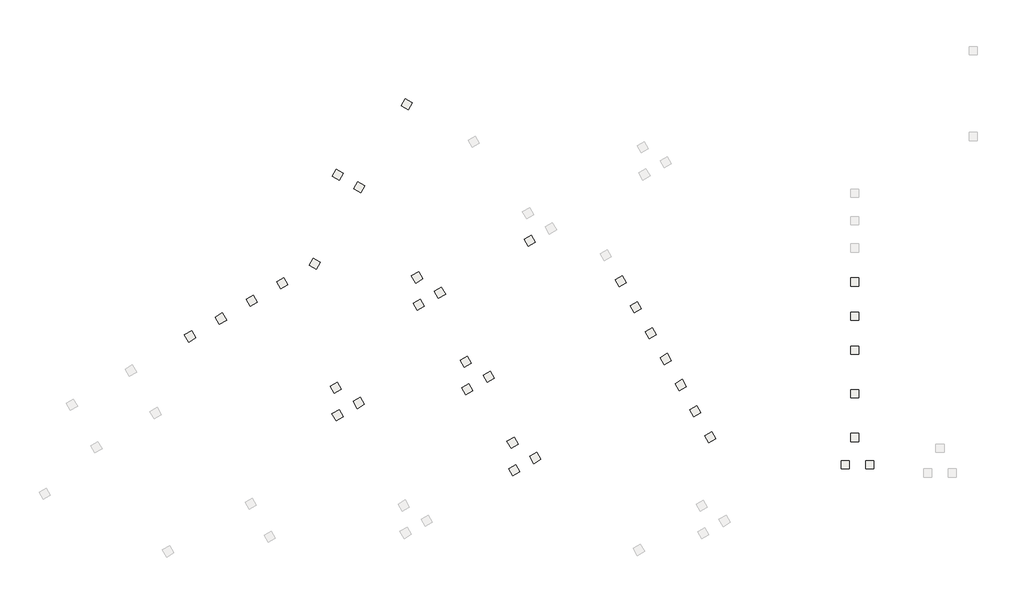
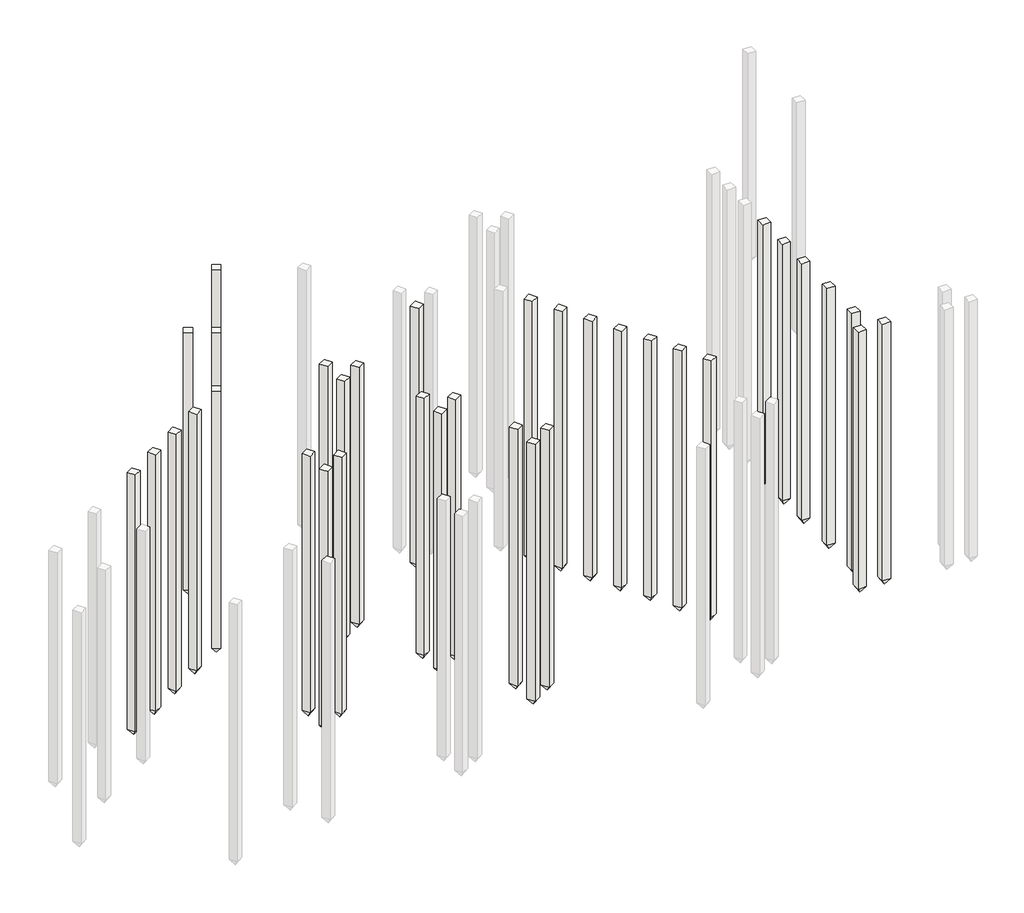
# One storey, part 3 of 6: 35 slabs.
"""IFC4 building model written with IfcOpenShell, lengths in millimetres."""

from ifc_helpers import new_model, si_unit, origin, place, context, project, spatial, faceted_brep, element, save

model = new_model("IFC4")

# Units and contexts
model_context = context("Model", 3, world=origin())
ifc_project = project(units=[si_unit("LENGTHUNIT", "METRE", prefix="MILLI")], contexts=[model_context])

# Site, building, storey
site = spatial("IfcSite", under=ifc_project)
building = spatial("IfcBuilding", under=site)
storey = spatial("IfcBuildingStorey", under=building, Name="КЖм.-1.150 (Верх свай 1)", Elevation=-1150.0)

# Slabs
placement = place(None, origin())
element("IfcSlab", 1, ObjectType="Бетонная свая прямоугольного сечения : C100.30-9", at=placement, inside=storey, context=model_context, shape_type="Brep", body=[
    faceted_brep([(18569.9782843, 17155.4364942, -1150.0), (18310.1706632, 17005.4364942, -1150.0), (18460.1706632, 16745.6288731, -1150.0), (18719.9782843, 16895.6288731, -1150.0), (18569.9782843, 17155.4364942, -1200.0), (18569.9782843, 17155.4364942, -1300.0), (18569.9782843, 17155.4364942, -11150.0), (18310.1706632, 17005.4364942, -11150.0), (18310.1706632, 17005.4364942, -1300.0), (18310.1706632, 17005.4364942, -1200.0), (18460.1706632, 16745.6288731, -11150.0), (18460.1706632, 16745.6288731, -1300.0), (18460.1706632, 16745.6288731, -1200.0), (18719.9782843, 16895.6288731, -11150.0), (18719.9782843, 16895.6288731, -1300.0), (18719.9782843, 16895.6288731, -1200.0), (18515.2503, 16951.0732662, -11400.0), (18515.6503, 16950.3804458, -11400.0), (18514.9574796, 16949.9804458, -11400.0), (18514.5574796, 16950.6732662, -11400.0)], [[[0, 1, 2, 3]], [[1, 0, 4, 5, 6, 7, 8, 9]], [[2, 1, 9, 8, 7, 10, 11, 12]], [[3, 2, 12, 11, 10, 13, 14, 15]], [[0, 3, 15, 14, 13, 6, 5, 4]], [[16, 17, 18, 19]], [[17, 16, 6, 13]], [[18, 17, 13, 10]], [[19, 18, 10, 7]], [[16, 19, 7, 6]]]),
])
element("IfcSlab", 2, ObjectType="Бетонная свая прямоугольного сечения : C100.30-9", at=placement, inside=storey, context=model_context, shape_type="Brep", body=[
    faceted_brep([(19349.3631241, 17605.5023466, -1150.0), (19089.555503, 17455.5023466, -1150.0), (19239.555503, 17195.6947254, -1150.0), (19499.3631241, 17345.6947254, -1150.0), (19349.3631241, 17605.5023466, -1200.0), (19349.3631241, 17605.5023466, -1300.0), (19349.3631241, 17605.5023466, -11150.0), (19089.555503, 17455.5023466, -11150.0), (19089.555503, 17455.5023466, -1300.0), (19089.555503, 17455.5023466, -1200.0), (19239.555503, 17195.6947254, -11150.0), (19239.555503, 17195.6947254, -1300.0), (19239.555503, 17195.6947254, -1200.0), (19499.3631241, 17345.6947254, -11150.0), (19499.3631241, 17345.6947254, -1300.0), (19499.3631241, 17345.6947254, -1200.0), (19294.6351398, 17401.1391185, -11400.0), (19295.0351398, 17400.4462982, -11400.0), (19294.3423195, 17400.0462982, -11400.0), (19293.9423195, 17400.7391185, -11400.0)], [[[0, 1, 2, 3]], [[1, 0, 4, 5, 6, 7, 8, 9]], [[2, 1, 9, 8, 7, 10, 11, 12]], [[3, 2, 12, 11, 10, 13, 14, 15]], [[0, 3, 15, 14, 13, 6, 5, 4]], [[16, 17, 18, 19]], [[17, 16, 6, 13]], [[18, 17, 13, 10]], [[19, 18, 10, 7]], [[16, 19, 7, 6]]]),
])
element("IfcSlab", 3, ObjectType="Бетонная свая прямоугольного сечения : C100.30-9", at=placement, inside=storey, context=model_context, shape_type="Brep", body=[
    faceted_brep([(18509.6048521, 18159.8542611, -1150.0), (18249.797231, 18009.8542611, -1150.0), (18399.797231, 17750.04664, -1150.0), (18659.6048521, 17900.04664, -1150.0), (18509.6048521, 18159.8542611, -1200.0), (18509.6048521, 18159.8542611, -1300.0), (18509.6048521, 18159.8542611, -11150.0), (18249.797231, 18009.8542611, -11150.0), (18249.797231, 18009.8542611, -1300.0), (18249.797231, 18009.8542611, -1200.0), (18399.797231, 17750.04664, -11150.0), (18399.797231, 17750.04664, -1300.0), (18399.797231, 17750.04664, -1200.0), (18659.6048521, 17900.04664, -11150.0), (18659.6048521, 17900.04664, -1300.0), (18659.6048521, 17900.04664, -1200.0), (18454.8768677, 17955.4910331, -11400.0), (18455.2768677, 17954.7982128, -11400.0), (18454.5840474, 17954.3982128, -11400.0), (18454.1840474, 17955.0910331, -11400.0)], [[[0, 1, 2, 3]], [[1, 0, 4, 5, 6, 7, 8, 9]], [[2, 1, 9, 8, 7, 10, 11, 12]], [[3, 2, 12, 11, 10, 13, 14, 15]], [[0, 3, 15, 14, 13, 6, 5, 4]], [[16, 17, 18, 19]], [[17, 16, 6, 13]], [[18, 17, 13, 10]], [[19, 18, 10, 7]], [[16, 19, 7, 6]]]),
])
element("IfcSlab", 4, ObjectType="Бетонная свая прямоугольного сечения : C100.30-9", at=placement, inside=storey, context=model_context, shape_type="Brep", body=[
    faceted_brep([(12093.3976217, 19171.8934815, -1150.0), (11833.5900006, 19021.8934815, -1150.0), (11983.5900006, 18762.0858604, -1150.0), (12243.3976217, 18912.0858604, -1150.0), (12093.3976217, 19171.8934815, -1200.0), (12093.3976217, 19171.8934815, -1300.0), (12093.3976217, 19171.8934815, -11150.0), (11833.5900006, 19021.8934815, -11150.0), (11833.5900006, 19021.8934815, -1300.0), (11833.5900006, 19021.8934815, -1200.0), (11983.5900006, 18762.0858604, -11150.0), (11983.5900006, 18762.0858604, -1300.0), (11983.5900006, 18762.0858604, -1200.0), (12243.3976217, 18912.0858604, -11150.0), (12243.3976217, 18912.0858604, -1300.0), (12243.3976217, 18912.0858604, -1200.0), (12038.6696374, 18967.5302535, -11400.0), (12039.0696374, 18966.8374332, -11400.0), (12038.376817, 18966.4374332, -11400.0), (12037.976817, 18967.1302535, -11400.0)], [[[0, 1, 2, 3]], [[1, 0, 4, 5, 6, 7, 8, 9]], [[2, 1, 9, 8, 7, 10, 11, 12]], [[3, 2, 12, 11, 10, 13, 14, 15]], [[0, 3, 15, 14, 13, 6, 5, 4]], [[16, 17, 18, 19]], [[17, 16, 6, 13]], [[18, 17, 13, 10]], [[19, 18, 10, 7]], [[16, 19, 7, 6]]]),
])
element("IfcSlab", 5, ObjectType="Бетонная свая прямоугольного сечения : C100.30-9", at=placement, inside=storey, context=model_context, shape_type="Brep", body=[
    faceted_brep([(12872.7824615, 19621.9593339, -1150.0), (12612.9748404, 19471.9593339, -1150.0), (12762.9748404, 19212.1517128, -1150.0), (13022.7824615, 19362.1517128, -1150.0), (12872.7824615, 19621.9593339, -1200.0), (12872.7824615, 19621.9593339, -1300.0), (12872.7824615, 19621.9593339, -11150.0), (12612.9748404, 19471.9593339, -11150.0), (12612.9748404, 19471.9593339, -1300.0), (12612.9748404, 19471.9593339, -1200.0), (12762.9748404, 19212.1517128, -11150.0), (12762.9748404, 19212.1517128, -1300.0), (12762.9748404, 19212.1517128, -1200.0), (13022.7824615, 19362.1517128, -11150.0), (13022.7824615, 19362.1517128, -1300.0), (13022.7824615, 19362.1517128, -1200.0), (12818.0544772, 19417.5961059, -11400.0), (12818.4544772, 19416.9032856, -11400.0), (12817.7616569, 19416.5032856, -11400.0), (12817.3616569, 19417.1961059, -11400.0)], [[[0, 1, 2, 3]], [[1, 0, 4, 5, 6, 7, 8, 9]], [[2, 1, 9, 8, 7, 10, 11, 12]], [[3, 2, 12, 11, 10, 13, 14, 15]], [[0, 3, 15, 14, 13, 6, 5, 4]], [[16, 17, 18, 19]], [[17, 16, 6, 13]], [[18, 17, 13, 10]], [[19, 18, 10, 7]], [[16, 19, 7, 6]]]),
])
element("IfcSlab", 6, ObjectType="Бетонная свая прямоугольного сечения : C100.30-9", at=placement, inside=storey, context=model_context, shape_type="Brep", body=[
    faceted_brep([(12033.0241895, 20176.3112485, -1150.0), (11773.2165684, 20026.3112485, -1150.0), (11923.2165684, 19766.5036273, -1150.0), (12183.0241895, 19916.5036273, -1150.0), (12033.0241895, 20176.3112485, -1200.0), (12033.0241895, 20176.3112485, -1300.0), (12033.0241895, 20176.3112485, -11150.0), (11773.2165684, 20026.3112485, -11150.0), (11773.2165684, 20026.3112485, -1300.0), (11773.2165684, 20026.3112485, -1200.0), (11923.2165684, 19766.5036273, -11150.0), (11923.2165684, 19766.5036273, -1300.0), (11923.2165684, 19766.5036273, -1200.0), (12183.0241895, 19916.5036273, -11150.0), (12183.0241895, 19916.5036273, -1300.0), (12183.0241895, 19916.5036273, -1200.0), (11978.2962051, 19971.9480204, -11400.0), (11978.6962051, 19971.2552001, -11400.0), (11978.0033848, 19970.8552001, -11400.0), (11977.6033848, 19971.5480204, -11400.0)], [[[0, 1, 2, 3]], [[1, 0, 4, 5, 6, 7, 8, 9]], [[2, 1, 9, 8, 7, 10, 11, 12]], [[3, 2, 12, 11, 10, 13, 14, 15]], [[0, 3, 15, 14, 13, 6, 5, 4]], [[16, 17, 18, 19]], [[17, 16, 6, 13]], [[18, 17, 13, 10]], [[19, 18, 10, 7]], [[16, 19, 7, 6]]]),
])
element("IfcSlab", 7, ObjectType="Бетонная свая прямоугольного сечения : C100.30-9", at=placement, inside=storey, context=model_context, shape_type="Brep", body=[
    faceted_brep([(15069.4585442, 23217.3272177, -1150.0), (14809.650923, 23067.3272177, -1150.0), (14959.650923, 22807.5195965, -1150.0), (15219.4585442, 22957.5195965, -1150.0), (15069.4585442, 23217.3272177, -1200.0), (15069.4585442, 23217.3272177, -1300.0), (15069.4585442, 23217.3272177, -11150.0), (14809.650923, 23067.3272177, -11150.0), (14809.650923, 23067.3272177, -1300.0), (14809.650923, 23067.3272177, -1200.0), (14959.650923, 22807.5195965, -11150.0), (14959.650923, 22807.5195965, -1300.0), (14959.650923, 22807.5195965, -1200.0), (15219.4585442, 22957.5195965, -11150.0), (15219.4585442, 22957.5195965, -1300.0), (15219.4585442, 22957.5195965, -1200.0), (15014.7305598, 23012.9639896, -11400.0), (15015.1305598, 23012.2711693, -11400.0), (15014.4377395, 23011.8711693, -11400.0), (15014.0377395, 23012.5639896, -11400.0)], [[[0, 1, 2, 3]], [[1, 0, 4, 5, 6, 7, 8, 9]], [[2, 1, 9, 8, 7, 10, 11, 12]], [[3, 2, 12, 11, 10, 13, 14, 15]], [[0, 3, 15, 14, 13, 6, 5, 4]], [[16, 17, 18, 19]], [[17, 16, 6, 13]], [[18, 17, 13, 10]], [[19, 18, 10, 7]], [[16, 19, 7, 6]]]),
])
element("IfcSlab", 8, ObjectType="Бетонная свая прямоугольного сечения : C100.30-9", at=placement, inside=storey, context=model_context, shape_type="Brep", body=[
    faceted_brep([(15848.843384, 23667.39307, -1150.0), (15589.0357628, 23517.39307, -1150.0), (15739.0357628, 23257.5854489, -1150.0), (15998.843384, 23407.5854489, -1150.0), (15848.843384, 23667.39307, -1200.0), (15848.843384, 23667.39307, -1300.0), (15848.843384, 23667.39307, -11150.0), (15589.0357628, 23517.39307, -11150.0), (15589.0357628, 23517.39307, -1300.0), (15589.0357628, 23517.39307, -1200.0), (15739.0357628, 23257.5854489, -11150.0), (15739.0357628, 23257.5854489, -1300.0), (15739.0357628, 23257.5854489, -1200.0), (15998.843384, 23407.5854489, -11150.0), (15998.843384, 23407.5854489, -1300.0), (15998.843384, 23407.5854489, -1200.0), (15794.1153996, 23463.029842, -11400.0), (15794.5153996, 23462.3370217, -11400.0), (15793.8225793, 23461.9370217, -11400.0), (15793.4225793, 23462.629842, -11400.0)], [[[0, 1, 2, 3]], [[1, 0, 4, 5, 6, 7, 8, 9]], [[2, 1, 9, 8, 7, 10, 11, 12]], [[3, 2, 12, 11, 10, 13, 14, 15]], [[0, 3, 15, 14, 13, 6, 5, 4]], [[16, 17, 18, 19]], [[17, 16, 6, 13]], [[18, 17, 13, 10]], [[19, 18, 10, 7]], [[16, 19, 7, 6]]]),
])
element("IfcSlab", 9, ObjectType="Бетонная свая прямоугольного сечения : C100.30-9", at=placement, inside=storey, context=model_context, shape_type="Brep", body=[
    faceted_brep([(15009.0851119, 24221.7449846, -1150.0), (14749.2774908, 24071.7449846, -1150.0), (14899.2774908, 23811.9373634, -1150.0), (15159.0851119, 23961.9373634, -1150.0), (15009.0851119, 24221.7449846, -1200.0), (15009.0851119, 24221.7449846, -1300.0), (15009.0851119, 24221.7449846, -11150.0), (14749.2774908, 24071.7449846, -11150.0), (14749.2774908, 24071.7449846, -1300.0), (14749.2774908, 24071.7449846, -1200.0), (14899.2774908, 23811.9373634, -11150.0), (14899.2774908, 23811.9373634, -1300.0), (14899.2774908, 23811.9373634, -1200.0), (15159.0851119, 23961.9373634, -11150.0), (15159.0851119, 23961.9373634, -1300.0), (15159.0851119, 23961.9373634, -1200.0), (14954.3571276, 24017.3817565, -11400.0), (14954.7571276, 24016.6889362, -11400.0), (14954.0643073, 24016.2889362, -11400.0), (14953.6643073, 24016.9817565, -11400.0)], [[[0, 1, 2, 3]], [[1, 0, 4, 5, 6, 7, 8, 9]], [[2, 1, 9, 8, 7, 10, 11, 12]], [[3, 2, 12, 11, 10, 13, 14, 15]], [[0, 3, 15, 14, 13, 6, 5, 4]], [[16, 17, 18, 19]], [[17, 16, 6, 13]], [[18, 17, 13, 10]], [[19, 18, 10, 7]], [[16, 19, 7, 6]]]),
])
element("IfcSlab", 10, ObjectType="Бетонная свая прямоугольного сечения : C100.30-9", at=placement, inside=storey, context=model_context, shape_type="Brep", body=[
    faceted_brep([(19139.5842981, 25567.6626822, -1150.0), (18879.776677, 25417.6626822, -1150.0), (19029.776677, 25157.855061, -1150.0), (19289.5842981, 25307.855061, -1150.0), (19139.5842981, 25567.6626822, -1200.0), (19139.5842981, 25567.6626822, -1300.0), (19139.5842981, 25567.6626822, -11150.0), (18879.776677, 25417.6626822, -11150.0), (18879.776677, 25417.6626822, -1300.0), (18879.776677, 25417.6626822, -1200.0), (19029.776677, 25157.855061, -11150.0), (19029.776677, 25157.855061, -1300.0), (19029.776677, 25157.855061, -1200.0), (19289.5842981, 25307.855061, -11150.0), (19289.5842981, 25307.855061, -1300.0), (19289.5842981, 25307.855061, -1200.0), (19084.8563137, 25363.2994541, -11400.0), (19085.2563137, 25362.6066338, -11400.0), (19084.5634934, 25362.2066338, -11400.0), (19084.1634934, 25362.8994541, -11400.0)], [[[0, 1, 2, 3]], [[1, 0, 4, 5, 6, 7, 8, 9]], [[2, 1, 9, 8, 7, 10, 11, 12]], [[3, 2, 12, 11, 10, 13, 14, 15]], [[0, 3, 15, 14, 13, 6, 5, 4]], [[16, 17, 18, 19]], [[17, 16, 6, 13]], [[18, 17, 13, 10]], [[19, 18, 10, 7]], [[16, 19, 7, 6]]]),
])
element("IfcSlab", 11, ObjectType="Бетонная свая прямоугольного сечения : C100.30-9", at=placement, inside=storey, context=model_context, shape_type="Brep", body=[
    faceted_brep([(25763.5685356, 18365.377475, -1150.0), (25503.7609145, 18215.377475, -1150.0), (25653.7609145, 17955.5698539, -1150.0), (25913.5685356, 18105.5698539, -1150.0), (25763.5685356, 18365.377475, -1200.0), (25763.5685356, 18365.377475, -1300.0), (25763.5685356, 18365.377475, -11150.0), (25503.7609145, 18215.377475, -11150.0), (25503.7609145, 18215.377475, -1300.0), (25503.7609145, 18215.377475, -1200.0), (25653.7609145, 17955.5698539, -11150.0), (25653.7609145, 17955.5698539, -1300.0), (25653.7609145, 17955.5698539, -1200.0), (25913.5685356, 18105.5698539, -11150.0), (25913.5685356, 18105.5698539, -1300.0), (25913.5685356, 18105.5698539, -1200.0), (25708.8405512, 18161.0142469, -11400.0), (25709.2405512, 18160.3214266, -11400.0), (25708.5477309, 18159.9214266, -11400.0), (25708.1477309, 18160.6142469, -11400.0)], [[[0, 1, 2, 3]], [[1, 0, 4, 5, 6, 7, 8, 9]], [[2, 1, 9, 8, 7, 10, 11, 12]], [[3, 2, 12, 11, 10, 13, 14, 15]], [[0, 3, 15, 14, 13, 6, 5, 4]], [[16, 17, 18, 19]], [[17, 16, 6, 13]], [[18, 17, 13, 10]], [[19, 18, 10, 7]], [[16, 19, 7, 6]]]),
])
element("IfcSlab", 12, ObjectType="Бетонная свая прямоугольного сечения : C100.30-9", at=placement, inside=storey, context=model_context, shape_type="Brep", body=[
    faceted_brep([(25214.0131646, 19318.2619752, -1150.0), (24954.2055434, 19168.2619752, -1150.0), (25104.2055434, 18908.4543541, -1150.0), (25364.0131646, 19058.4543541, -1150.0), (25214.0131646, 19318.2619752, -1200.0), (25214.0131646, 19318.2619752, -1300.0), (25214.0131646, 19318.2619752, -11150.0), (24954.2055434, 19168.2619752, -11150.0), (24954.2055434, 19168.2619752, -1300.0), (24954.2055434, 19168.2619752, -1200.0), (25104.2055434, 18908.4543541, -11150.0), (25104.2055434, 18908.4543541, -1300.0), (25104.2055434, 18908.4543541, -1200.0), (25364.0131646, 19058.4543541, -11150.0), (25364.0131646, 19058.4543541, -1300.0), (25364.0131646, 19058.4543541, -1200.0), (25159.2851802, 19113.8987472, -11400.0), (25159.6851802, 19113.2059269, -11400.0), (25158.9923599, 19112.8059269, -11400.0), (25158.5923599, 19113.4987472, -11400.0)], [[[0, 1, 2, 3]], [[1, 0, 4, 5, 6, 7, 8, 9]], [[2, 1, 9, 8, 7, 10, 11, 12]], [[3, 2, 12, 11, 10, 13, 14, 15]], [[0, 3, 15, 14, 13, 6, 5, 4]], [[16, 17, 18, 19]], [[17, 16, 6, 13]], [[18, 17, 13, 10]], [[19, 18, 10, 7]], [[16, 19, 7, 6]]]),
])
element("IfcSlab", 13, ObjectType="Бетонная свая прямоугольного сечения : C100.30-9", at=placement, inside=storey, context=model_context, shape_type="Brep", body=[
    faceted_brep([(24674.1678741, 20276.6792756, -1150.0), (24414.3602529, 20126.6792756, -1150.0), (24564.3602529, 19866.8716545, -1150.0), (24824.1678741, 20016.8716545, -1150.0), (24674.1678741, 20276.6792756, -1200.0), (24674.1678741, 20276.6792756, -1300.0), (24674.1678741, 20276.6792756, -11150.0), (24414.3602529, 20126.6792756, -11150.0), (24414.3602529, 20126.6792756, -1300.0), (24414.3602529, 20126.6792756, -1200.0), (24564.3602529, 19866.8716545, -11150.0), (24564.3602529, 19866.8716545, -1300.0), (24564.3602529, 19866.8716545, -1200.0), (24824.1678741, 20016.8716545, -11150.0), (24824.1678741, 20016.8716545, -1300.0), (24824.1678741, 20016.8716545, -1200.0), (24619.4398897, 20072.3160476, -11400.0), (24619.8398897, 20071.6232272, -11400.0), (24619.1470694, 20071.2232272, -11400.0), (24618.7470694, 20071.9160476, -11400.0)], [[[0, 1, 2, 3]], [[1, 0, 4, 5, 6, 7, 8, 9]], [[2, 1, 9, 8, 7, 10, 11, 12]], [[3, 2, 12, 11, 10, 13, 14, 15]], [[0, 3, 15, 14, 13, 6, 5, 4]], [[16, 17, 18, 19]], [[17, 16, 6, 13]], [[18, 17, 13, 10]], [[19, 18, 10, 7]], [[16, 19, 7, 6]]]),
])
element("IfcSlab", 14, ObjectType="Бетонная свая прямоугольного сечения : C100.30-9", at=placement, inside=storey, context=model_context, shape_type="Brep", body=[
    faceted_brep([(24124.656966, 21229.5894313, -1150.0), (23864.8493449, 21079.5894313, -1150.0), (24014.8493449, 20819.7818102, -1150.0), (24274.656966, 20969.7818102, -1150.0), (24124.656966, 21229.5894313, -1200.0), (24124.656966, 21229.5894313, -1300.0), (24124.656966, 21229.5894313, -11150.0), (23864.8493449, 21079.5894313, -11150.0), (23864.8493449, 21079.5894313, -1300.0), (23864.8493449, 21079.5894313, -1200.0), (24014.8493449, 20819.7818102, -11150.0), (24014.8493449, 20819.7818102, -1300.0), (24014.8493449, 20819.7818102, -1200.0), (24274.656966, 20969.7818102, -11150.0), (24274.656966, 20969.7818102, -1300.0), (24274.656966, 20969.7818102, -1200.0), (24069.9289816, 21025.2262033, -11400.0), (24070.3289816, 21024.533383, -11400.0), (24069.6361613, 21024.133383, -11400.0), (24069.2361613, 21024.8262033, -11400.0)], [[[0, 1, 2, 3]], [[1, 0, 4, 5, 6, 7, 8, 9]], [[2, 1, 9, 8, 7, 10, 11, 12]], [[3, 2, 12, 11, 10, 13, 14, 15]], [[0, 3, 15, 14, 13, 6, 5, 4]], [[16, 17, 18, 19]], [[17, 16, 6, 13]], [[18, 17, 13, 10]], [[19, 18, 10, 7]], [[16, 19, 7, 6]]]),
])
element("IfcSlab", 15, ObjectType="Бетонная свая прямоугольного сечения : C100.30-9", at=placement, inside=storey, context=model_context, shape_type="Brep", body=[
    faceted_brep([(23575.1460586, 22182.4995859, -1150.0), (23315.3384375, 22032.4995859, -1150.0), (23465.3384375, 21772.6919648, -1150.0), (23725.1460586, 21922.6919648, -1150.0), (23575.1460586, 22182.4995859, -1200.0), (23575.1460586, 22182.4995859, -1300.0), (23575.1460586, 22182.4995859, -11150.0), (23315.3384375, 22032.4995859, -11150.0), (23315.3384375, 22032.4995859, -1300.0), (23315.3384375, 22032.4995859, -1200.0), (23465.3384375, 21772.6919648, -11150.0), (23465.3384375, 21772.6919648, -1300.0), (23465.3384375, 21772.6919648, -1200.0), (23725.1460586, 21922.6919648, -11150.0), (23725.1460586, 21922.6919648, -1300.0), (23725.1460586, 21922.6919648, -1200.0), (23520.4180742, 21978.1363578, -11400.0), (23520.8180742, 21977.4435375, -11400.0), (23520.1252539, 21977.0435375, -11400.0), (23519.7252539, 21977.7363578, -11400.0)], [[[0, 1, 2, 3]], [[1, 0, 4, 5, 6, 7, 8, 9]], [[2, 1, 9, 8, 7, 10, 11, 12]], [[3, 2, 12, 11, 10, 13, 14, 15]], [[0, 3, 15, 14, 13, 6, 5, 4]], [[16, 17, 18, 19]], [[17, 16, 6, 13]], [[18, 17, 13, 10]], [[19, 18, 10, 7]], [[16, 19, 7, 6]]]),
])
element("IfcSlab", 16, ObjectType="Бетонная свая прямоугольного сечения : C100.30-9", at=placement, inside=storey, context=model_context, shape_type="Brep", body=[
    faceted_brep([(23025.6351512, 23135.4097404, -1150.0), (22765.8275301, 22985.4097404, -1150.0), (22915.8275301, 22725.6021193, -1150.0), (23175.6351512, 22875.6021193, -1150.0), (23025.6351512, 23135.4097404, -1200.0), (23025.6351512, 23135.4097404, -1300.0), (23025.6351512, 23135.4097404, -11150.0), (22765.8275301, 22985.4097404, -11150.0), (22765.8275301, 22985.4097404, -1300.0), (22765.8275301, 22985.4097404, -1200.0), (22915.8275301, 22725.6021193, -11150.0), (22915.8275301, 22725.6021193, -1300.0), (22915.8275301, 22725.6021193, -1200.0), (23175.6351512, 22875.6021193, -11150.0), (23175.6351512, 22875.6021193, -1300.0), (23175.6351512, 22875.6021193, -1200.0), (22970.9071669, 22931.0465124, -11400.0), (22971.3071669, 22930.3536921, -11400.0), (22970.6143465, 22929.9536921, -11400.0), (22970.2143465, 22930.6465124, -11400.0)], [[[0, 1, 2, 3]], [[1, 0, 4, 5, 6, 7, 8, 9]], [[2, 1, 9, 8, 7, 10, 11, 12]], [[3, 2, 12, 11, 10, 13, 14, 15]], [[0, 3, 15, 14, 13, 6, 5, 4]], [[16, 17, 18, 19]], [[17, 16, 6, 13]], [[18, 17, 13, 10]], [[19, 18, 10, 7]], [[16, 19, 7, 6]]]),
])
element("IfcSlab", 17, ObjectType="Бетонная свая прямоугольного сечения : C100.30-9", at=placement, inside=storey, context=model_context, shape_type="Brep", body=[
    faceted_brep([(22476.1242438, 24088.319895, -1150.0), (22216.3166227, 23938.319895, -1150.0), (22366.3166227, 23678.5122739, -1150.0), (22626.1242438, 23828.5122739, -1150.0), (22476.1242438, 24088.319895, -1200.0), (22476.1242438, 24088.319895, -1300.0), (22476.1242438, 24088.319895, -11150.0), (22216.3166227, 23938.319895, -11150.0), (22216.3166227, 23938.319895, -1300.0), (22216.3166227, 23938.319895, -1200.0), (22366.3166227, 23678.5122739, -11150.0), (22366.3166227, 23678.5122739, -1300.0), (22366.3166227, 23678.5122739, -1200.0), (22626.1242438, 23828.5122739, -11150.0), (22626.1242438, 23828.5122739, -1300.0), (22626.1242438, 23828.5122739, -1200.0), (22421.3962595, 23883.956667, -11400.0), (22421.7962595, 23883.2638466, -11400.0), (22421.1034391, 23882.8638466, -11400.0), (22420.7034391, 23883.556667, -11400.0)], [[[0, 1, 2, 3]], [[1, 0, 4, 5, 6, 7, 8, 9]], [[2, 1, 9, 8, 7, 10, 11, 12]], [[3, 2, 12, 11, 10, 13, 14, 15]], [[0, 3, 15, 14, 13, 6, 5, 4]], [[16, 17, 18, 19]], [[17, 16, 6, 13]], [[18, 17, 13, 10]], [[19, 18, 10, 7]], [[16, 19, 7, 6]]]),
])
element("IfcSlab", 18, ObjectType="Бетонная свая прямоугольного сечения : C100.30-9", at=placement, inside=storey, context=model_context, shape_type="Brep", body=[
    faceted_brep([(7819.0274475, 22714.4790619, -1150.0), (7559.2198263, 22564.4790619, -1150.0), (7709.2198263, 22304.6714408, -1150.0), (7969.0274475, 22454.6714408, -1150.0), (7819.0274475, 22714.4790619, -1200.0), (7819.0274475, 22714.4790619, -1300.0), (7819.0274475, 22714.4790619, -11150.0), (7559.2198263, 22564.4790619, -11150.0), (7559.2198263, 22564.4790619, -1300.0), (7559.2198263, 22564.4790619, -1200.0), (7709.2198263, 22304.6714408, -11150.0), (7709.2198263, 22304.6714408, -1300.0), (7709.2198263, 22304.6714408, -1200.0), (7969.0274475, 22454.6714408, -11150.0), (7969.0274475, 22454.6714408, -1300.0), (7969.0274475, 22454.6714408, -1200.0), (7764.2994631, 22510.1158339, -11400.0), (7764.6994631, 22509.4230136, -11400.0), (7764.0066428, 22509.0230136, -11400.0), (7763.6066428, 22509.7158339, -11400.0)], [[[0, 1, 2, 3]], [[1, 0, 4, 5, 6, 7, 8, 9]], [[2, 1, 9, 8, 7, 10, 11, 12]], [[3, 2, 12, 11, 10, 13, 14, 15]], [[0, 3, 15, 14, 13, 6, 5, 4]], [[16, 17, 18, 19]], [[17, 16, 6, 13]], [[18, 17, 13, 10]], [[19, 18, 10, 7]], [[16, 19, 7, 6]]]),
])
element("IfcSlab", 19, ObjectType="Бетонная свая прямоугольного сечения : C100.30-9", at=placement, inside=storey, context=model_context, shape_type="Brep", body=[
    faceted_brep([(8944.7421903, 23364.6838894, -1150.0), (8684.9345692, 23214.6838894, -1150.0), (8834.9345692, 22954.8762682, -1150.0), (9094.7421903, 23104.8762682, -1150.0), (8944.7421903, 23364.6838894, -1200.0), (8944.7421903, 23364.6838894, -1300.0), (8944.7421903, 23364.6838894, -11150.0), (8684.9345692, 23214.6838894, -11150.0), (8684.9345692, 23214.6838894, -1300.0), (8684.9345692, 23214.6838894, -1200.0), (8834.9345692, 22954.8762682, -11150.0), (8834.9345692, 22954.8762682, -1300.0), (8834.9345692, 22954.8762682, -1200.0), (9094.7421903, 23104.8762682, -11150.0), (9094.7421903, 23104.8762682, -1300.0), (9094.7421903, 23104.8762682, -1200.0), (8890.014206, 23160.3206613, -11400.0), (8890.414206, 23159.627841, -11400.0), (8889.7213857, 23159.227841, -11400.0), (8889.3213857, 23159.9206613, -11400.0)], [[[0, 1, 2, 3]], [[1, 0, 4, 5, 6, 7, 8, 9]], [[2, 1, 9, 8, 7, 10, 11, 12]], [[3, 2, 12, 11, 10, 13, 14, 15]], [[0, 3, 15, 14, 13, 6, 5, 4]], [[16, 17, 18, 19]], [[17, 16, 6, 13]], [[18, 17, 13, 10]], [[19, 18, 10, 7]], [[16, 19, 7, 6]]]),
])
element("IfcSlab", 20, ObjectType="Бетонная свая прямоугольного сечения : C100.30-9", at=placement, inside=storey, context=model_context, shape_type="Brep", body=[
    faceted_brep([(10070.4569319, 24014.8887192, -1150.0), (9810.6493107, 23864.8887192, -1150.0), (9960.6493107, 23605.081098, -1150.0), (10220.4569319, 23755.081098, -1150.0), (10070.4569319, 24014.8887192, -1200.0), (10070.4569319, 24014.8887192, -1300.0), (10070.4569319, 24014.8887192, -11150.0), (9810.6493107, 23864.8887192, -11150.0), (9810.6493107, 23864.8887192, -1300.0), (9810.6493107, 23864.8887192, -1200.0), (9960.6493107, 23605.081098, -11150.0), (9960.6493107, 23605.081098, -1300.0), (9960.6493107, 23605.081098, -1200.0), (10220.4569319, 23755.081098, -11150.0), (10220.4569319, 23755.081098, -1300.0), (10220.4569319, 23755.081098, -1200.0), (10015.7289475, 23810.5254911, -11400.0), (10016.1289475, 23809.8326708, -11400.0), (10015.4361272, 23809.4326708, -11400.0), (10015.0361272, 23810.1254911, -11400.0)], [[[0, 1, 2, 3]], [[1, 0, 4, 5, 6, 7, 8, 9]], [[2, 1, 9, 8, 7, 10, 11, 12]], [[3, 2, 12, 11, 10, 13, 14, 15]], [[0, 3, 15, 14, 13, 6, 5, 4]], [[16, 17, 18, 19]], [[17, 16, 6, 13]], [[18, 17, 13, 10]], [[19, 18, 10, 7]], [[16, 19, 7, 6]]]),
])
element("IfcSlab", 21, ObjectType="Бетонная свая прямоугольного сечения : C100.30-9", at=placement, inside=storey, context=model_context, shape_type="Brep", body=[
    faceted_brep([(11150.7510475, 24720.9951444, -1150.0), (11000.7510475, 24461.1875233, -1150.0), (11260.5586686, 24311.1875233, -1150.0), (11410.5586686, 24570.9951444, -1150.0), (11150.7510475, 24720.9951444, -1200.0), (11150.7510475, 24720.9951444, -1300.0), (11150.7510475, 24720.9951444, -11150.0), (11000.7510475, 24461.1875233, -11150.0), (11000.7510475, 24461.1875233, -1300.0), (11000.7510475, 24461.1875233, -1200.0), (11260.5586686, 24311.1875233, -11150.0), (11260.5586686, 24311.1875233, -1300.0), (11260.5586686, 24311.1875233, -1200.0), (11410.5586686, 24570.9951444, -11150.0), (11410.5586686, 24570.9951444, -1300.0), (11410.5586686, 24570.9951444, -1200.0), (11205.5368367, 24516.6474052, -11400.0), (11206.2296571, 24516.2474052, -11400.0), (11205.8296571, 24515.5545849, -11400.0), (11205.1368367, 24515.9545849, -11400.0)], [[[0, 1, 2, 3]], [[1, 0, 4, 5, 6, 7, 8, 9]], [[2, 1, 9, 8, 7, 10, 11, 12]], [[3, 2, 12, 11, 10, 13, 14, 15]], [[0, 3, 15, 14, 13, 6, 5, 4]], [[16, 17, 18, 19]], [[17, 16, 6, 13]], [[18, 17, 13, 10]], [[19, 18, 10, 7]], [[16, 19, 7, 6]]]),
])
element("IfcSlab", 22, ObjectType="Бетонная свая прямоугольного сечения : C100.30-9", at=placement, inside=storey, context=model_context, shape_type="Brep", body=[
    faceted_brep([(12775.5643244, 27535.6855031, -1150.0), (12625.5643244, 27275.877882, -1150.0), (12885.3719455, 27125.877882, -1150.0), (13035.3719455, 27385.6855031, -1150.0), (12775.5643244, 27535.6855031, -1200.0), (12775.5643244, 27535.6855031, -1300.0), (12775.5643244, 27535.6855031, -11150.0), (12625.5643244, 27275.877882, -11150.0), (12625.5643244, 27275.877882, -1300.0), (12625.5643244, 27275.877882, -1200.0), (12885.3719455, 27125.877882, -11150.0), (12885.3719455, 27125.877882, -1300.0), (12885.3719455, 27125.877882, -1200.0), (13035.3719455, 27385.6855031, -11150.0), (13035.3719455, 27385.6855031, -1300.0), (13035.3719455, 27385.6855031, -1200.0), (12830.3501137, 27331.3377638, -11400.0), (12831.042934, 27330.9377638, -11400.0), (12830.642934, 27330.2449435, -11400.0), (12829.9501137, 27330.6449435, -11400.0)], [[[0, 1, 2, 3]], [[1, 0, 4, 5, 6, 7, 8, 9]], [[2, 1, 9, 8, 7, 10, 11, 12]], [[3, 2, 12, 11, 10, 13, 14, 15]], [[0, 3, 15, 14, 13, 6, 5, 4]], [[16, 17, 18, 19]], [[17, 16, 6, 13]], [[18, 17, 13, 10]], [[19, 18, 10, 7]], [[16, 19, 7, 6]]]),
])
element("IfcSlab", 23, ObjectType="Бетонная свая прямоугольного сечения : C100.30-9", at=placement, inside=storey, context=model_context, shape_type="Brep", body=[
    faceted_brep([(14527.4332581, 30570.4427093, -1150.0), (14377.4332581, 30310.6350882, -1150.0), (14637.2408793, 30160.6350882, -1150.0), (14787.2408793, 30420.4427093, -1150.0), (14527.4332581, 30570.4427093, -1200.0), (14527.4332581, 30570.4427093, -1300.0), (14527.4332581, 30570.4427093, -11150.0), (14377.4332581, 30310.6350882, -11150.0), (14377.4332581, 30310.6350882, -1300.0), (14377.4332581, 30310.6350882, -1200.0), (14637.2408793, 30160.6350882, -11150.0), (14637.2408793, 30160.6350882, -1300.0), (14637.2408793, 30160.6350882, -1200.0), (14787.2408793, 30420.4427093, -11150.0), (14787.2408793, 30420.4427093, -1300.0), (14787.2408793, 30420.4427093, -1200.0), (14582.2190474, 30366.0949701, -11400.0), (14582.9118677, 30365.6949701, -11400.0), (14582.5118677, 30365.0021497, -11400.0), (14581.8190474, 30365.4021497, -11400.0)], [[[0, 1, 2, 3]], [[1, 0, 4, 5, 6, 7, 8, 9]], [[2, 1, 9, 8, 7, 10, 11, 12]], [[3, 2, 12, 11, 10, 13, 14, 15]], [[0, 3, 15, 14, 13, 6, 5, 4]], [[16, 17, 18, 19]], [[17, 16, 6, 13]], [[18, 17, 13, 10]], [[19, 18, 10, 7]], [[16, 19, 7, 6]]]),
])
element("IfcSlab", 24, ObjectType="Бетонная свая прямоугольного сечения : C100.30-9", at=placement, inside=storey, context=model_context, shape_type="Brep", body=[
    faceted_brep([(30803.1586913, 17299.4353741, -1150.0), (30503.1586913, 17299.4353741, -1150.0), (30503.1586913, 16999.4353741, -1150.0), (30803.1586913, 16999.4353741, -1150.0), (30803.1586913, 17299.4353741, -1200.0), (30803.1586913, 17299.4353741, -1300.0), (30803.1586913, 17299.4353741, -11150.0), (30503.1586913, 17299.4353741, -11150.0), (30503.1586913, 17299.4353741, -1300.0), (30503.1586913, 17299.4353741, -1200.0), (30503.1586913, 16999.4353741, -11150.0), (30503.1586913, 16999.4353741, -1300.0), (30503.1586913, 16999.4353741, -1200.0), (30803.1586913, 16999.4353741, -11150.0), (30803.1586913, 16999.4353741, -1300.0), (30803.1586913, 16999.4353741, -1200.0), (30653.5812525, 17149.8156192, -11400.0), (30653.5812525, 17149.0156192, -11400.0), (30652.7812525, 17149.0156192, -11400.0), (30652.7812525, 17149.8156192, -11400.0)], [[[0, 1, 2, 3]], [[1, 0, 4, 5, 6, 7, 8, 9]], [[2, 1, 9, 8, 7, 10, 11, 12]], [[3, 2, 12, 11, 10, 13, 14, 15]], [[0, 3, 15, 14, 13, 6, 5, 4]], [[16, 17, 18, 19]], [[17, 16, 6, 13]], [[18, 17, 13, 10]], [[19, 18, 10, 7]], [[16, 19, 7, 6]]]),
])
element("IfcSlab", 25, ObjectType="Бетонная свая прямоугольного сечения : C100.30-9", at=placement, inside=storey, context=model_context, shape_type="Brep", body=[
    faceted_brep([(31703.2453134, 17299.4353741, -1150.0), (31403.2453134, 17299.4353741, -1150.0), (31403.2453134, 16999.4353741, -1150.0), (31703.2453134, 16999.4353741, -1150.0), (31703.2453134, 17299.4353741, -1200.0), (31703.2453134, 17299.4353741, -1300.0), (31703.2453134, 17299.4353741, -11150.0), (31403.2453134, 17299.4353741, -11150.0), (31403.2453134, 17299.4353741, -1300.0), (31403.2453134, 17299.4353741, -1200.0), (31403.2453134, 16999.4353741, -11150.0), (31403.2453134, 16999.4353741, -1300.0), (31403.2453134, 16999.4353741, -1200.0), (31703.2453134, 16999.4353741, -11150.0), (31703.2453134, 16999.4353741, -1300.0), (31703.2453134, 16999.4353741, -1200.0), (31553.6678746, 17149.8156192, -11400.0), (31553.6678746, 17149.0156192, -11400.0), (31552.8678746, 17149.0156192, -11400.0), (31552.8678746, 17149.8156192, -11400.0)], [[[0, 1, 2, 3]], [[1, 0, 4, 5, 6, 7, 8, 9]], [[2, 1, 9, 8, 7, 10, 11, 12]], [[3, 2, 12, 11, 10, 13, 14, 15]], [[0, 3, 15, 14, 13, 6, 5, 4]], [[16, 17, 18, 19]], [[17, 16, 6, 13]], [[18, 17, 13, 10]], [[19, 18, 10, 7]], [[16, 19, 7, 6]]]),
])
element("IfcSlab", 26, ObjectType="Бетонная свая прямоугольного сечения : C100.30-9", at=placement, inside=storey, context=model_context, shape_type="Brep", body=[
    faceted_brep([(31158.0495692, 23999.4354275, -1150.0), (30858.0495692, 23999.4354275, -1150.0), (30858.0495692, 23699.4354275, -1150.0), (31158.0495692, 23699.4354275, -1150.0), (31158.0495692, 23999.4354275, -1200.0), (31158.0495692, 23999.4354275, -1300.0), (31158.0495692, 23999.4354275, -11150.0), (30858.0495692, 23999.4354275, -11150.0), (30858.0495692, 23999.4354275, -1300.0), (30858.0495692, 23999.4354275, -1200.0), (30858.0495692, 23699.4354275, -11150.0), (30858.0495692, 23699.4354275, -1300.0), (30858.0495692, 23699.4354275, -1200.0), (31158.0495692, 23699.4354275, -11150.0), (31158.0495692, 23699.4354275, -1300.0), (31158.0495692, 23699.4354275, -1200.0), (31008.4721304, 23849.8156726, -11400.0), (31008.4721304, 23849.0156726, -11400.0), (31007.6721304, 23849.0156726, -11400.0), (31007.6721304, 23849.8156726, -11400.0)], [[[0, 1, 2, 3]], [[1, 0, 4, 5, 6, 7, 8, 9]], [[2, 1, 9, 8, 7, 10, 11, 12]], [[3, 2, 12, 11, 10, 13, 14, 15]], [[0, 3, 15, 14, 13, 6, 5, 4]], [[16, 17, 18, 19]], [[17, 16, 6, 13]], [[18, 17, 13, 10]], [[19, 18, 10, 7]], [[16, 19, 7, 6]]]),
])
element("IfcSlab", 27, ObjectType="Бетонная свая прямоугольного сечения : C100.30-9", at=placement, inside=storey, context=model_context, shape_type="Brep", body=[
    faceted_brep([(31158.0495692, 22749.4354275, -1150.0), (30858.0495692, 22749.4354275, -1150.0), (30858.0495692, 22449.4354275, -1150.0), (31158.0495692, 22449.4354275, -1150.0), (31158.0495692, 22749.4354275, -1200.0), (31158.0495692, 22749.4354275, -1300.0), (31158.0495692, 22749.4354275, -11150.0), (30858.0495692, 22749.4354275, -11150.0), (30858.0495692, 22749.4354275, -1300.0), (30858.0495692, 22749.4354275, -1200.0), (30858.0495692, 22449.4354275, -11150.0), (30858.0495692, 22449.4354275, -1300.0), (30858.0495692, 22449.4354275, -1200.0), (31158.0495692, 22449.4354275, -11150.0), (31158.0495692, 22449.4354275, -1300.0), (31158.0495692, 22449.4354275, -1200.0), (31008.4721304, 22599.8156726, -11400.0), (31008.4721304, 22599.0156726, -11400.0), (31007.6721304, 22599.0156726, -11400.0), (31007.6721304, 22599.8156726, -11400.0)], [[[0, 1, 2, 3]], [[1, 0, 4, 5, 6, 7, 8, 9]], [[2, 1, 9, 8, 7, 10, 11, 12]], [[3, 2, 12, 11, 10, 13, 14, 15]], [[0, 3, 15, 14, 13, 6, 5, 4]], [[16, 17, 18, 19]], [[17, 16, 6, 13]], [[18, 17, 13, 10]], [[19, 18, 10, 7]], [[16, 19, 7, 6]]]),
])
element("IfcSlab", 28, ObjectType="Бетонная свая прямоугольного сечения : C100.30-9", at=placement, inside=storey, context=model_context, shape_type="Brep", body=[
    faceted_brep([(31158.0495692, 21499.4354275, -1150.0), (30858.0495692, 21499.4354275, -1150.0), (30858.0495692, 21199.4354275, -1150.0), (31158.0495692, 21199.4354275, -1150.0), (31158.0495692, 21499.4354275, -1200.0), (31158.0495692, 21499.4354275, -1300.0), (31158.0495692, 21499.4354275, -11150.0), (30858.0495692, 21499.4354275, -11150.0), (30858.0495692, 21499.4354275, -1300.0), (30858.0495692, 21499.4354275, -1200.0), (30858.0495692, 21199.4354275, -11150.0), (30858.0495692, 21199.4354275, -1300.0), (30858.0495692, 21199.4354275, -1200.0), (31158.0495692, 21199.4354275, -11150.0), (31158.0495692, 21199.4354275, -1300.0), (31158.0495692, 21199.4354275, -1200.0), (31008.4721304, 21349.8156726, -11400.0), (31008.4721304, 21349.0156726, -11400.0), (31007.6721304, 21349.0156726, -11400.0), (31007.6721304, 21349.8156726, -11400.0)], [[[0, 1, 2, 3]], [[1, 0, 4, 5, 6, 7, 8, 9]], [[2, 1, 9, 8, 7, 10, 11, 12]], [[3, 2, 12, 11, 10, 13, 14, 15]], [[0, 3, 15, 14, 13, 6, 5, 4]], [[16, 17, 18, 19]], [[17, 16, 6, 13]], [[18, 17, 13, 10]], [[19, 18, 10, 7]], [[16, 19, 7, 6]]]),
])
element("IfcSlab", 29, ObjectType="Бетонная свая прямоугольного сечения : C100.30-9", at=placement, inside=storey, context=model_context, shape_type="Brep", body=[
    faceted_brep([(31158.0495692, 19899.4354275, -1150.0), (30858.0495692, 19899.4354275, -1150.0), (30858.0495692, 19599.4354275, -1150.0), (31158.0495692, 19599.4354275, -1150.0), (31158.0495692, 19899.4354275, -1200.0), (31158.0495692, 19899.4354275, -1300.0), (31158.0495692, 19899.4354275, -11150.0), (30858.0495692, 19899.4354275, -11150.0), (30858.0495692, 19899.4354275, -1300.0), (30858.0495692, 19899.4354275, -1200.0), (30858.0495692, 19599.4354275, -11150.0), (30858.0495692, 19599.4354275, -1300.0), (30858.0495692, 19599.4354275, -1200.0), (31158.0495692, 19599.4354275, -11150.0), (31158.0495692, 19599.4354275, -1300.0), (31158.0495692, 19599.4354275, -1200.0), (31008.4721304, 19749.8156726, -11400.0), (31008.4721304, 19749.0156726, -11400.0), (31007.6721304, 19749.0156726, -11400.0), (31007.6721304, 19749.8156726, -11400.0)], [[[0, 1, 2, 3]], [[1, 0, 4, 5, 6, 7, 8, 9]], [[2, 1, 9, 8, 7, 10, 11, 12]], [[3, 2, 12, 11, 10, 13, 14, 15]], [[0, 3, 15, 14, 13, 6, 5, 4]], [[16, 17, 18, 19]], [[17, 16, 6, 13]], [[18, 17, 13, 10]], [[19, 18, 10, 7]], [[16, 19, 7, 6]]]),
])
element("IfcSlab", 30, ObjectType="Бетонная свая прямоугольного сечения : C100.30-9", at=placement, inside=storey, context=model_context, shape_type="Brep", body=[
    faceted_brep([(31158.0495692, 18299.4354275, -1150.0), (30858.0495692, 18299.4354275, -1150.0), (30858.0495692, 17999.4354275, -1150.0), (31158.0495692, 17999.4354275, -1150.0), (31158.0495692, 18299.4354275, -1200.0), (31158.0495692, 18299.4354275, -1300.0), (31158.0495692, 18299.4354275, -11150.0), (30858.0495692, 18299.4354275, -11150.0), (30858.0495692, 18299.4354275, -1300.0), (30858.0495692, 18299.4354275, -1200.0), (30858.0495692, 17999.4354275, -11150.0), (30858.0495692, 17999.4354275, -1300.0), (30858.0495692, 17999.4354275, -1200.0), (31158.0495692, 17999.4354275, -11150.0), (31158.0495692, 17999.4354275, -1300.0), (31158.0495692, 17999.4354275, -1200.0), (31008.4721304, 18149.8156726, -11400.0), (31008.4721304, 18149.0156726, -11400.0), (31007.6721304, 18149.0156726, -11400.0), (31007.6721304, 18149.8156726, -11400.0)], [[[0, 1, 2, 3]], [[1, 0, 4, 5, 6, 7, 8, 9]], [[2, 1, 9, 8, 7, 10, 11, 12]], [[3, 2, 12, 11, 10, 13, 14, 15]], [[0, 3, 15, 14, 13, 6, 5, 4]], [[16, 17, 18, 19]], [[17, 16, 6, 13]], [[18, 17, 13, 10]], [[19, 18, 10, 7]], [[16, 19, 7, 6]]]),
])
element("IfcSlab", 31, ObjectType="Бетонная свая прямоугольного сечения : C100.30-9", at=placement, inside=storey, context=model_context, shape_type="Brep", body=[
    faceted_brep([(16854.7534137, 20125.7117989, -1150.0), (16594.9457925, 19975.7117989, -1150.0), (16744.9457925, 19715.9041778, -1150.0), (17004.7534137, 19865.9041778, -1150.0), (16854.7534137, 20125.7117989, -1200.0), (16854.7534137, 20125.7117989, -1300.0), (16854.7534137, 20125.7117989, -11150.0), (16594.9457925, 19975.7117989, -11150.0), (16594.9457925, 19975.7117989, -1300.0), (16594.9457925, 19975.7117989, -1200.0), (16744.9457925, 19715.9041778, -11150.0), (16744.9457925, 19715.9041778, -1300.0), (16744.9457925, 19715.9041778, -1200.0), (17004.7534137, 19865.9041778, -11150.0), (17004.7534137, 19865.9041778, -1300.0), (17004.7534137, 19865.9041778, -1200.0), (16800.0254293, 19921.3485709, -11400.0), (16800.4254293, 19920.6557506, -11400.0), (16799.732609, 19920.2557506, -11400.0), (16799.332609, 19920.9485709, -11400.0)], [[[0, 1, 2, 3]], [[1, 0, 4, 5, 6, 7, 8, 9]], [[2, 1, 9, 8, 7, 10, 11, 12]], [[3, 2, 12, 11, 10, 13, 14, 15]], [[0, 3, 15, 14, 13, 6, 5, 4]], [[16, 17, 18, 19]], [[17, 16, 6, 13]], [[18, 17, 13, 10]], [[19, 18, 10, 7]], [[16, 19, 7, 6]]]),
])
element("IfcSlab", 32, ObjectType="Бетонная свая прямоугольного сечения : C100.30-9", at=placement, inside=storey, context=model_context, shape_type="Brep", body=[
    faceted_brep([(17634.1382535, 20575.7776513, -1150.0), (17374.3306324, 20425.7776513, -1150.0), (17524.3306324, 20165.9700302, -1150.0), (17784.1382535, 20315.9700302, -1150.0), (17634.1382535, 20575.7776513, -1200.0), (17634.1382535, 20575.7776513, -1300.0), (17634.1382535, 20575.7776513, -11150.0), (17374.3306324, 20425.7776513, -11150.0), (17374.3306324, 20425.7776513, -1300.0), (17374.3306324, 20425.7776513, -1200.0), (17524.3306324, 20165.9700302, -11150.0), (17524.3306324, 20165.9700302, -1300.0), (17524.3306324, 20165.9700302, -1200.0), (17784.1382535, 20315.9700302, -11150.0), (17784.1382535, 20315.9700302, -1300.0), (17784.1382535, 20315.9700302, -1200.0), (17579.4102691, 20371.4144233, -11400.0), (17579.8102691, 20370.7216029, -11400.0), (17579.1174488, 20370.3216029, -11400.0), (17578.7174488, 20371.0144233, -11400.0)], [[[0, 1, 2, 3]], [[1, 0, 4, 5, 6, 7, 8, 9]], [[2, 1, 9, 8, 7, 10, 11, 12]], [[3, 2, 12, 11, 10, 13, 14, 15]], [[0, 3, 15, 14, 13, 6, 5, 4]], [[16, 17, 18, 19]], [[17, 16, 6, 13]], [[18, 17, 13, 10]], [[19, 18, 10, 7]], [[16, 19, 7, 6]]]),
])
element("IfcSlab", 33, ObjectType="Бетонная свая прямоугольного сечения : C100.30-9", at=placement, inside=storey, context=model_context, shape_type="Brep", body=[
    faceted_brep([(16794.3799815, 21130.1295659, -1150.0), (16534.5723603, 20980.1295659, -1150.0), (16684.5723603, 20720.3219447, -1150.0), (16944.3799815, 20870.3219447, -1150.0), (16794.3799815, 21130.1295659, -1200.0), (16794.3799815, 21130.1295659, -1300.0), (16794.3799815, 21130.1295659, -11150.0), (16534.5723603, 20980.1295659, -11150.0), (16534.5723603, 20980.1295659, -1300.0), (16534.5723603, 20980.1295659, -1200.0), (16684.5723603, 20720.3219447, -11150.0), (16684.5723603, 20720.3219447, -1300.0), (16684.5723603, 20720.3219447, -1200.0), (16944.3799815, 20870.3219447, -11150.0), (16944.3799815, 20870.3219447, -1300.0), (16944.3799815, 20870.3219447, -1200.0), (16739.6519971, 20925.7663378, -11400.0), (16740.0519971, 20925.0735175, -11400.0), (16739.3591768, 20924.6735175, -11400.0), (16738.9591768, 20925.3663378, -11400.0)], [[[0, 1, 2, 3]], [[1, 0, 4, 5, 6, 7, 8, 9]], [[2, 1, 9, 8, 7, 10, 11, 12]], [[3, 2, 12, 11, 10, 13, 14, 15]], [[0, 3, 15, 14, 13, 6, 5, 4]], [[16, 17, 18, 19]], [[17, 16, 6, 13]], [[18, 17, 13, 10]], [[19, 18, 10, 7]], [[16, 19, 7, 6]]]),
])
element("IfcSlab", 34, ObjectType="Бетонная свая прямоугольного сечения : C100.30-9", at=placement, inside=storey, context=model_context, shape_type="Brep", body=[
    faceted_brep([(11996.1116102, 27985.6337933, -1150.0), (11846.1116102, 27725.8261722, -1150.0), (12105.9192313, 27575.8261722, -1150.0), (12255.9192313, 27835.6337933, -1150.0), (11996.1116102, 27985.6337933, -1200.0), (11996.1116102, 27985.6337933, -1300.0), (11996.1116102, 27985.6337933, -11150.0), (11846.1116102, 27725.8261722, -11150.0), (11846.1116102, 27725.8261722, -1300.0), (11846.1116102, 27725.8261722, -1200.0), (12105.9192313, 27575.8261722, -11150.0), (12105.9192313, 27575.8261722, -1300.0), (12105.9192313, 27575.8261722, -1200.0), (12255.9192313, 27835.6337933, -11150.0), (12255.9192313, 27835.6337933, -1300.0), (12255.9192313, 27835.6337933, -1200.0), (12050.8973994, 27781.2860541, -11400.0), (12051.5902198, 27780.8860541, -11400.0), (12051.1902198, 27780.1932337, -11400.0), (12050.4973994, 27780.5932337, -11400.0)], [[[0, 1, 2, 3]], [[1, 0, 4, 5, 6, 7, 8, 9]], [[2, 1, 9, 8, 7, 10, 11, 12]], [[3, 2, 12, 11, 10, 13, 14, 15]], [[0, 3, 15, 14, 13, 6, 5, 4]], [[16, 17, 18, 19]], [[17, 16, 6, 13]], [[18, 17, 13, 10]], [[19, 18, 10, 7]], [[16, 19, 7, 6]]]),
])
element("IfcSlab", 35, ObjectType="Бетонная свая прямоугольного сечения : C100.30-9", at=placement, inside=storey, context=model_context, shape_type="Brep", body=[
    faceted_brep([(6684.6196376, 22059.3308463, -1150.0), (6424.8120164, 21909.3308463, -1150.0), (6574.8120164, 21649.5232252, -1150.0), (6834.6196376, 21799.5232252, -1150.0), (6684.6196376, 22059.3308463, -1200.0), (6684.6196376, 22059.3308463, -1300.0), (6684.6196376, 22059.3308463, -11150.0), (6424.8120164, 21909.3308463, -11150.0), (6424.8120164, 21909.3308463, -1300.0), (6424.8120164, 21909.3308463, -1200.0), (6574.8120164, 21649.5232252, -11150.0), (6574.8120164, 21649.5232252, -1300.0), (6574.8120164, 21649.5232252, -1200.0), (6834.6196376, 21799.5232252, -11150.0), (6834.6196376, 21799.5232252, -1300.0), (6834.6196376, 21799.5232252, -1200.0), (6629.8916532, 21854.9676182, -11400.0), (6630.2916532, 21854.2747979, -11400.0), (6629.5988329, 21853.8747979, -11400.0), (6629.1988329, 21854.5676182, -11400.0)], [[[0, 1, 2, 3]], [[1, 0, 4, 5, 6, 7, 8, 9]], [[2, 1, 9, 8, 7, 10, 11, 12]], [[3, 2, 12, 11, 10, 13, 14, 15]], [[0, 3, 15, 14, 13, 6, 5, 4]], [[16, 17, 18, 19]], [[17, 16, 6, 13]], [[18, 17, 13, 10]], [[19, 18, 10, 7]], [[16, 19, 7, 6]]]),
])

save(model, "model.ifc")
